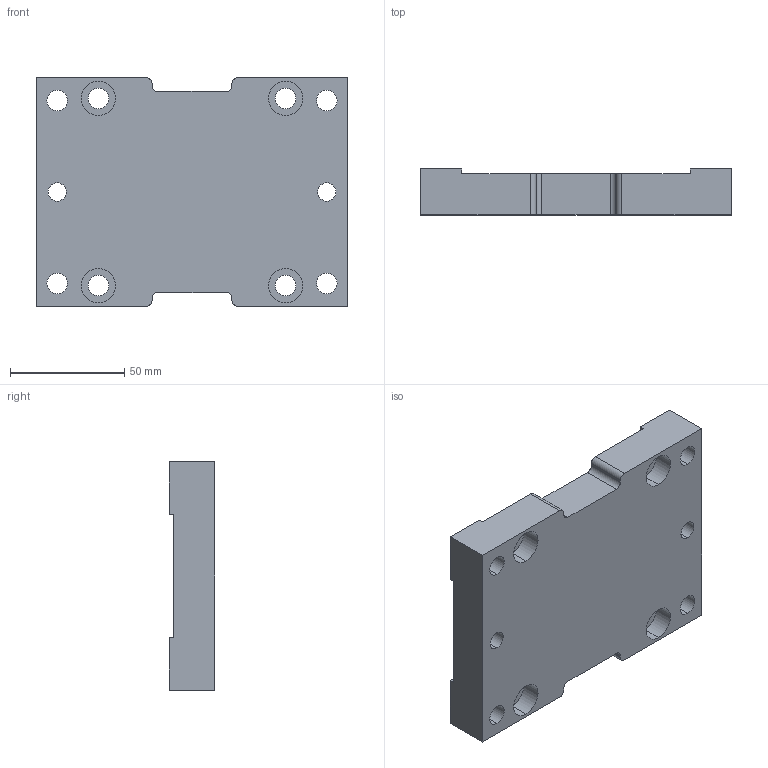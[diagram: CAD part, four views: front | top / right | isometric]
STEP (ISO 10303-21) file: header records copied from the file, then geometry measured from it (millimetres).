
FILE_DESCRIPTION (( 'STEP AP203' ), '1' );
FILE_NAME ('T80J.step', '2017-02-15T12:26:26', ( '' ), ( '' ), 'SwSTEP 2.0', 'SolidWorks 2012', '' );
FILE_SCHEMA (( 'CONFIG_CONTROL_DESIGN' ));
Length unit declared in the file: millimetre
Products named in the file (1): T80J
Bounding box: 136 x 20 x 100 mm (x, y, z)
Volume: 221282.5 mm3; surface area: 41071.1 mm2
Topology: 1 solids, 1 shells, 78 faces, 204 edges, 136 vertices
Faces by surface type: cylinder 44, plane 34
Entity records: 2553 total; most frequent: DIRECTION 450, CARTESIAN_POINT 419, ORIENTED_EDGE 408, EDGE_CURVE 204, AXIS2_PLACEMENT_3D 167, VERTEX_POINT 136, LINE 116, VECTOR 116
